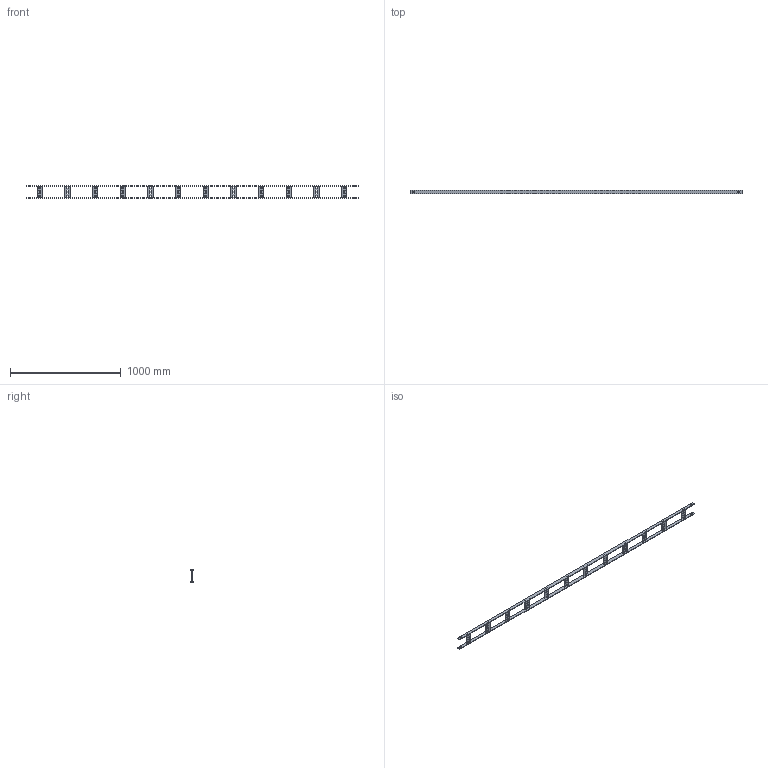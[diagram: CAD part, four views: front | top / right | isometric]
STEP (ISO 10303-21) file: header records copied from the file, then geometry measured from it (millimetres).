
FILE_DESCRIPTION(('Creo Elements/Direct Modeling STEP Export'),'2;1');
FILE_NAME('//pserver/office/EK/ME10-3D/3D-output/SKL 100F.stp','2020-03-10T 9:31:48',(''),(''),'PTC Creo Elements/Direct Modeling STEP processor for AP214 (Solid Model)','PTC Creo Elements/Direct Modeling 19.0C 15-Aug-2015 (C) Parametric Technology GmbH','');
FILE_SCHEMA(('AUTOMOTIVE_DESIGN { 1 0 10303 214 1 1 1 1 }'));
Length unit declared in the file: millimetre
Products named in the file (3): SKLSP_010B.009; SKL_Holm-L3000; SKL_100F
Assembly tree (14 placements, depth 2):
  SKL_100F
    SKLSP_010B.009  x12
    SKL_Holm-L3000  x2
Bounding box: 3000 x 30 x 110 mm (x, y, z)
Volume: 1111106.6 mm3; surface area: 551233.4 mm2
Topology: 14 solids, 14 shells, 292 faces, 792 edges, 528 vertices
Faces by surface type: plane 188, cylinder 104
Entity records: 1319 total; most frequent: DIRECTION 222, CARTESIAN_POINT 211, ORIENTED_EDGE 192, EDGE_CURVE 96, AXIS2_PLACEMENT_3D 75, VECTOR 72, LINE 72, VERTEX_POINT 64
